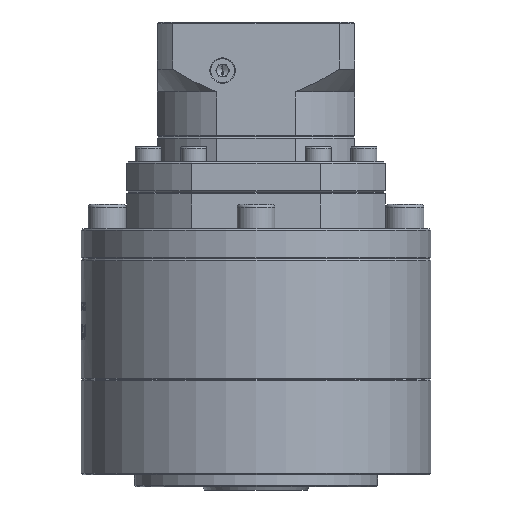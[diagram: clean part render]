
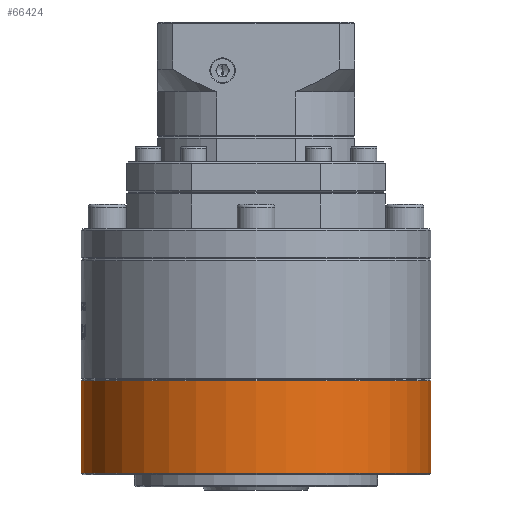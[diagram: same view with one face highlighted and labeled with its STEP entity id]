
A CAD part, left-side view. The second image highlights one B-rep face of the part: STEP entity #66424.
In plain terms, the highlighted cylindrical face has radius 57.5 mm (diameter 115 mm), a partial arc.
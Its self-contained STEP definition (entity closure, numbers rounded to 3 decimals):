
#7058 = LINE ( 'NONE', #124691, #78266 ) ;
#9627 = VECTOR ( 'NONE', #64025, 1000. ) ;
#10596 = DIRECTION ( 'NONE',  ( 0., 0., 1. ) ) ;
#12076 = VERTEX_POINT ( 'NONE', #28963 ) ;
#20092 = CIRCLE ( 'NONE', #39310, 57.5 ) ;
#28963 = CARTESIAN_POINT ( 'NONE',  ( -58.71, -20.835, -101.125 ) ) ;
#31209 = FACE_OUTER_BOUND ( 'NONE', #108217, .T. ) ;
#34857 = AXIS2_PLACEMENT_3D ( 'NONE', #104470, #46526, #114168 ) ;
#35984 = AXIS2_PLACEMENT_3D ( 'NONE', #117522, #10596, #40562 ) ;
#39310 = AXIS2_PLACEMENT_3D ( 'NONE', #51160, #118785, #60880 ) ;
#40562 = DIRECTION ( 'NONE',  ( 0., 1., 0. ) ) ;
#44821 = CYLINDRICAL_SURFACE ( 'NONE', #35984, 57.5 ) ;
#46526 = DIRECTION ( 'NONE',  ( 0., 0., 1. ) ) ;
#49576 = EDGE_CURVE ( 'NONE', #79754, #12076, #109437, .T. ) ;
#51148 = ORIENTED_EDGE ( 'NONE', *, *, #66309, .F. ) ;
#51160 = CARTESIAN_POINT ( 'NONE',  ( -58.71, 36.665, -131.625 ) ) ;
#54311 = CARTESIAN_POINT ( 'NONE',  ( -58.71, -20.835, -119.125 ) ) ;
#57867 = CIRCLE ( 'NONE', #34857, 57.5 ) ;
#60880 = DIRECTION ( 'NONE',  ( 0., 1., 0. ) ) ;
#64025 = DIRECTION ( 'NONE',  ( 0., 0., 1. ) ) ;
#65381 = ORIENTED_EDGE ( 'NONE', *, *, #49576, .T. ) ;
#66309 = EDGE_CURVE ( 'NONE', #109959, #89184, #7058, .T. ) ;
#66424 = ADVANCED_FACE ( 'NONE', ( #31209 ), #44821, .T. ) ;
#78266 = VECTOR ( 'NONE', #115414, 1000. ) ;
#78999 = EDGE_CURVE ( 'NONE', #89184, #12076, #57867, .T. ) ;
#79754 = VERTEX_POINT ( 'NONE', #90352 ) ;
#81484 = CARTESIAN_POINT ( 'NONE',  ( -58.71, 94.165, -101.125 ) ) ;
#81796 = CARTESIAN_POINT ( 'NONE',  ( -58.71, 94.165, -131.625 ) ) ;
#85611 = ORIENTED_EDGE ( 'NONE', *, *, #100646, .T. ) ;
#89184 = VERTEX_POINT ( 'NONE', #81484 ) ;
#90352 = CARTESIAN_POINT ( 'NONE',  ( -58.71, -20.835, -131.625 ) ) ;
#100646 = EDGE_CURVE ( 'NONE', #109959, #79754, #20092, .T. ) ;
#104470 = CARTESIAN_POINT ( 'NONE',  ( -58.71, 36.665, -101.125 ) ) ;
#108217 = EDGE_LOOP ( 'NONE', ( #85611, #65381, #111898, #51148 ) ) ;
#109437 = LINE ( 'NONE', #54311, #9627 ) ;
#109959 = VERTEX_POINT ( 'NONE', #81796 ) ;
#111898 = ORIENTED_EDGE ( 'NONE', *, *, #78999, .F. ) ;
#114168 = DIRECTION ( 'NONE',  ( 0., -1., 0. ) ) ;
#115414 = DIRECTION ( 'NONE',  ( 0., 0., 1. ) ) ;
#117522 = CARTESIAN_POINT ( 'NONE',  ( -58.71, 36.665, -119.125 ) ) ;
#118785 = DIRECTION ( 'NONE',  ( 0., 0., 1. ) ) ;
#124691 = CARTESIAN_POINT ( 'NONE',  ( -58.71, 94.165, -119.125 ) ) ;
